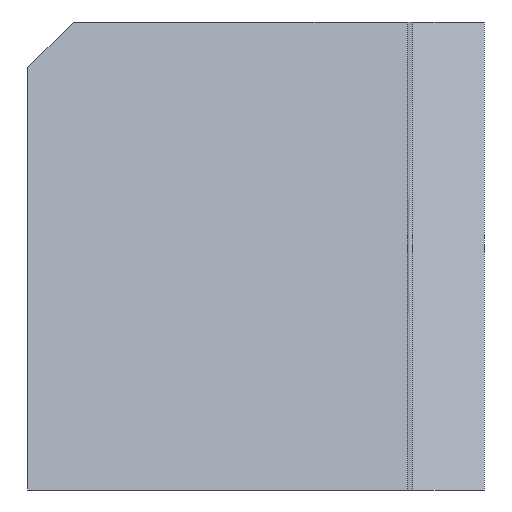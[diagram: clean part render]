
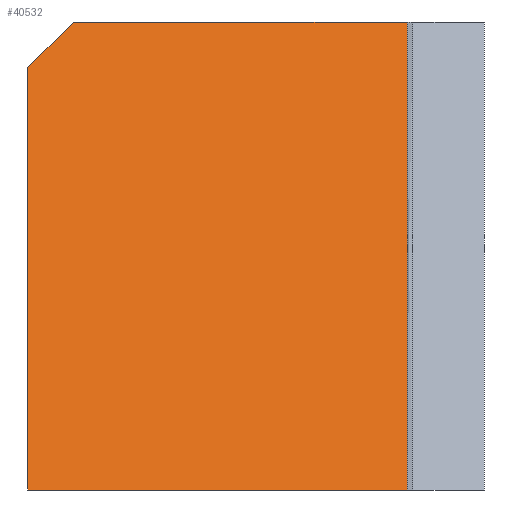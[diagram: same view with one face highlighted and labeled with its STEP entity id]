
A CAD part, left-side view. The second image highlights one B-rep face of the part: STEP entity #40532.
In plain terms, the highlighted planar face has unit normal (-0.943, 0, 0.334).
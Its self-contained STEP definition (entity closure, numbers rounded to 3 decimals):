
#4204=ORIENTED_EDGE('',*,*,#13216,.F.);
#4205=ORIENTED_EDGE('',*,*,#13217,.T.);
#4206=ORIENTED_EDGE('',*,*,#10667,.F.);
#4207=ORIENTED_EDGE('',*,*,#13218,.F.);
#4208=ORIENTED_EDGE('',*,*,#12013,.F.);
#10667=EDGE_CURVE('',#15173,#15174,#18155,.T.);
#12013=EDGE_CURVE('',#16518,#16520,#19055,.T.);
#13216=EDGE_CURVE('',#17722,#16518,#19858,.T.);
#13217=EDGE_CURVE('',#17722,#15174,#19859,.T.);
#13218=EDGE_CURVE('',#16520,#15173,#19860,.T.);
#15173=VERTEX_POINT('',#50995);
#15174=VERTEX_POINT('',#50996);
#16518=VERTEX_POINT('',#55435);
#16520=VERTEX_POINT('',#55438);
#17722=VERTEX_POINT('',#57844);
#18155=LINE('',#50994,#21667);
#19055=LINE('',#55437,#22567);
#19858=LINE('',#57843,#23370);
#19859=LINE('',#57845,#23371);
#19860=LINE('',#57846,#23372);
#21667=VECTOR('',#43776,1000.);
#22567=VECTOR('',#44702,1000.);
#23370=VECTOR('',#46307,1000.);
#23371=VECTOR('',#46308,1000.);
#23372=VECTOR('',#46309,1000.);
#25136=EDGE_LOOP('',(#4204,#4205,#4206,#4207,#4208));
#26816=FACE_BOUND('',#25136,.T.);
#28435=PLANE('',#42533);
#40532=ADVANCED_FACE('',(#26816),#28435,.T.);
#42533=AXIS2_PLACEMENT_3D('',#57842,#46305,#46306);
#43776=DIRECTION('',(0.,1.,0.));
#44702=DIRECTION('',(0.,-1.,0.));
#46305=DIRECTION('',(-0.942,0.,0.334));
#46306=DIRECTION('',(0.,1.,0.));
#46307=DIRECTION('',(0.243,-0.686,0.686));
#46308=DIRECTION('',(-0.334,0.,-0.942));
#46309=DIRECTION('',(-0.334,0.,-0.942));
#50994=CARTESIAN_POINT('',(-7.271,-16.625,-20.5));
#50995=CARTESIAN_POINT('',(-7.271,-16.625,-20.5));
#50996=CARTESIAN_POINT('',(-7.271,0.,-20.5));
#55435=CARTESIAN_POINT('',(0.,-2.,0.));
#55437=CARTESIAN_POINT('',(0.,0.,0.));
#55438=CARTESIAN_POINT('',(0.,-16.625,0.));
#57842=CARTESIAN_POINT('',(0.,-16.625,0.));
#57843=CARTESIAN_POINT('',(1.09,-5.074,3.074));
#57844=CARTESIAN_POINT('',(-0.709,0.,-2.));
#57845=CARTESIAN_POINT('',(0.,0.,0.));
#57846=CARTESIAN_POINT('',(0.,-16.625,0.));
